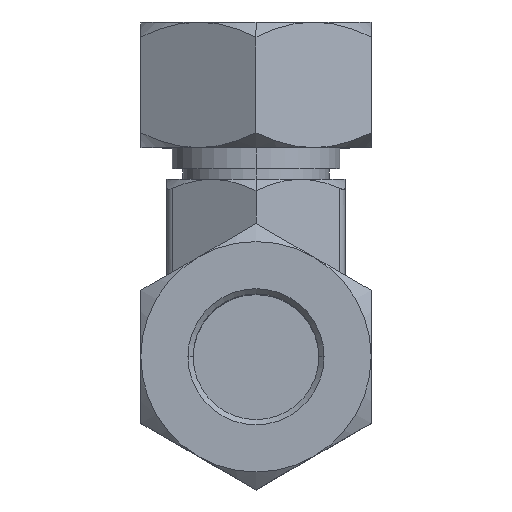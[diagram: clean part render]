
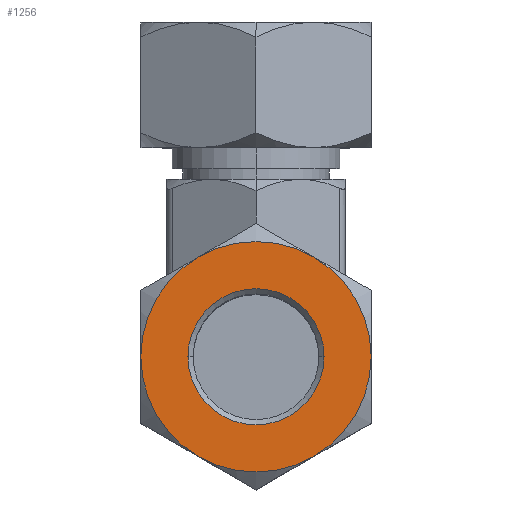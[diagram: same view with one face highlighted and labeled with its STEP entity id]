
A CAD part, top view. The second image highlights one B-rep face of the part: STEP entity #1256.
In plain terms, the highlighted planar face has unit normal (0, 0, 1).
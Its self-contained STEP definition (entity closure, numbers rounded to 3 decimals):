
#51 = CARTESIAN_POINT ( 'NONE',  ( 5.5, -9.526, 32. ) ) ;
#111 = CARTESIAN_POINT ( 'NONE',  ( 6.5, 0., 32. ) ) ;
#176 = CARTESIAN_POINT ( 'NONE',  ( -5.5, 9.526, 32. ) ) ;
#190 = CIRCLE ( 'NONE', #2464, 11. ) ;
#331 = DIRECTION ( 'NONE',  ( 1., 0., 0. ) ) ;
#448 = DIRECTION ( 'NONE',  ( 1., 0., 0. ) ) ;
#449 = CARTESIAN_POINT ( 'NONE',  ( 0., 0., 32. ) ) ;
#455 = DIRECTION ( 'NONE',  ( 0., 0., -1. ) ) ;
#516 = CARTESIAN_POINT ( 'NONE',  ( 5.5, 9.526, 32. ) ) ;
#531 = VERTEX_POINT ( 'NONE', #3456 ) ;
#556 = EDGE_LOOP ( 'NONE', ( #1455, #1192, #871, #1794, #3352, #1483 ) ) ;
#634 = ORIENTED_EDGE ( 'NONE', *, *, #1363, .T. ) ;
#745 = CIRCLE ( 'NONE', #3475, 6.5 ) ;
#759 = CIRCLE ( 'NONE', #1889, 11. ) ;
#789 = DIRECTION ( 'NONE',  ( 0., 0., 1. ) ) ;
#804 = VERTEX_POINT ( 'NONE', #111 ) ;
#805 = DIRECTION ( 'NONE',  ( 1., 0., 0. ) ) ;
#871 = ORIENTED_EDGE ( 'NONE', *, *, #2501, .T. ) ;
#880 = EDGE_CURVE ( 'NONE', #3913, #1986, #2957, .T. ) ;
#891 = DIRECTION ( 'NONE',  ( 0., 0., -1. ) ) ;
#898 = CARTESIAN_POINT ( 'NONE',  ( 0., 0., 32. ) ) ;
#992 = CARTESIAN_POINT ( 'NONE',  ( 11., 0., 32. ) ) ;
#1181 = CIRCLE ( 'NONE', #1338, 11. ) ;
#1192 = ORIENTED_EDGE ( 'NONE', *, *, #3773, .T. ) ;
#1227 = CARTESIAN_POINT ( 'NONE',  ( 0., 0., 32. ) ) ;
#1231 = DIRECTION ( 'NONE',  ( 1., 0., 0. ) ) ;
#1251 = DIRECTION ( 'NONE',  ( 0., 0., 1. ) ) ;
#1256 = ADVANCED_FACE ( 'NONE', ( #3206, #2622 ), #2902, .T. ) ;
#1338 = AXIS2_PLACEMENT_3D ( 'NONE', #2476, #2006, #1567 ) ;
#1363 = EDGE_CURVE ( 'NONE', #804, #2342, #3102, .T. ) ;
#1455 = ORIENTED_EDGE ( 'NONE', *, *, #4355, .T. ) ;
#1456 = VERTEX_POINT ( 'NONE', #51 ) ;
#1483 = ORIENTED_EDGE ( 'NONE', *, *, #3764, .T. ) ;
#1534 = DIRECTION ( 'NONE',  ( 1., 0., 0. ) ) ;
#1556 = AXIS2_PLACEMENT_3D ( 'NONE', #449, #4399, #3957 ) ;
#1567 = DIRECTION ( 'NONE',  ( 1., 0., 0. ) ) ;
#1674 = DIRECTION ( 'NONE',  ( 0., 0., 1. ) ) ;
#1794 = ORIENTED_EDGE ( 'NONE', *, *, #880, .T. ) ;
#1814 = EDGE_LOOP ( 'NONE', ( #634, #3004 ) ) ;
#1889 = AXIS2_PLACEMENT_3D ( 'NONE', #3950, #3504, #3046 ) ;
#1977 = DIRECTION ( 'NONE',  ( 0., 0., 1. ) ) ;
#1986 = VERTEX_POINT ( 'NONE', #2377 ) ;
#2006 = DIRECTION ( 'NONE',  ( 0., 0., 1. ) ) ;
#2007 = AXIS2_PLACEMENT_3D ( 'NONE', #1227, #789, #331 ) ;
#2089 = VERTEX_POINT ( 'NONE', #992 ) ;
#2125 = CARTESIAN_POINT ( 'NONE',  ( 0., 0., 32. ) ) ;
#2342 = VERTEX_POINT ( 'NONE', #3003 ) ;
#2377 = CARTESIAN_POINT ( 'NONE',  ( -11., 0., 32. ) ) ;
#2447 = CARTESIAN_POINT ( 'NONE',  ( 0., 0., 32. ) ) ;
#2464 = AXIS2_PLACEMENT_3D ( 'NONE', #2125, #1674, #1231 ) ;
#2476 = CARTESIAN_POINT ( 'NONE',  ( 0., 0., 32. ) ) ;
#2501 = EDGE_CURVE ( 'NONE', #2881, #3913, #3143, .T. ) ;
#2575 = AXIS2_PLACEMENT_3D ( 'NONE', #898, #455, #4406 ) ;
#2622 = FACE_OUTER_BOUND ( 'NONE', #556, .T. ) ;
#2689 = CARTESIAN_POINT ( 'NONE',  ( 0., 0., 32. ) ) ;
#2777 = AXIS2_PLACEMENT_3D ( 'NONE', #2447, #1977, #1534 ) ;
#2791 = CIRCLE ( 'NONE', #2007, 11. ) ;
#2881 = VERTEX_POINT ( 'NONE', #516 ) ;
#2902 = PLANE ( 'NONE',  #2777 ) ;
#2957 = CIRCLE ( 'NONE', #4206, 11. ) ;
#3003 = CARTESIAN_POINT ( 'NONE',  ( -6.5, 0., 32. ) ) ;
#3004 = ORIENTED_EDGE ( 'NONE', *, *, #3405, .T. ) ;
#3046 = DIRECTION ( 'NONE',  ( 1., 0., 0. ) ) ;
#3102 = CIRCLE ( 'NONE', #2575, 6.5 ) ;
#3143 = CIRCLE ( 'NONE', #1556, 11. ) ;
#3206 = FACE_BOUND ( 'NONE', #1814, .T. ) ;
#3352 = ORIENTED_EDGE ( 'NONE', *, *, #3751, .T. ) ;
#3405 = EDGE_CURVE ( 'NONE', #2342, #804, #745, .T. ) ;
#3456 = CARTESIAN_POINT ( 'NONE',  ( -5.5, -9.526, 32. ) ) ;
#3475 = AXIS2_PLACEMENT_3D ( 'NONE', #2689, #891, #448 ) ;
#3504 = DIRECTION ( 'NONE',  ( 0., 0., 1. ) ) ;
#3522 = CARTESIAN_POINT ( 'NONE',  ( 0., 0., 32. ) ) ;
#3751 = EDGE_CURVE ( 'NONE', #1986, #531, #759, .T. ) ;
#3764 = EDGE_CURVE ( 'NONE', #531, #1456, #2791, .T. ) ;
#3773 = EDGE_CURVE ( 'NONE', #2089, #2881, #1181, .T. ) ;
#3913 = VERTEX_POINT ( 'NONE', #176 ) ;
#3950 = CARTESIAN_POINT ( 'NONE',  ( 0., 0., 32. ) ) ;
#3957 = DIRECTION ( 'NONE',  ( 1., 0., 0. ) ) ;
#4206 = AXIS2_PLACEMENT_3D ( 'NONE', #3522, #1251, #805 ) ;
#4355 = EDGE_CURVE ( 'NONE', #1456, #2089, #190, .T. ) ;
#4399 = DIRECTION ( 'NONE',  ( 0., 0., 1. ) ) ;
#4406 = DIRECTION ( 'NONE',  ( 1., 0., 0. ) ) ;
